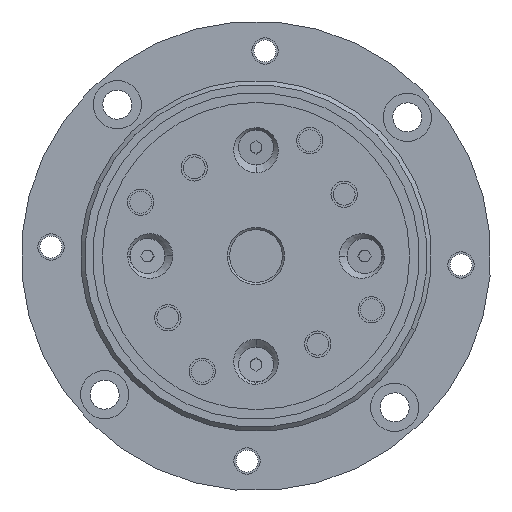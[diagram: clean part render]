
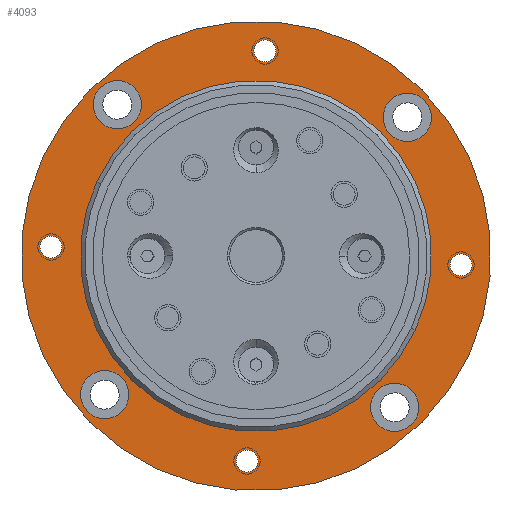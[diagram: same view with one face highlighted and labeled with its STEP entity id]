
A CAD part, front view. The second image highlights one B-rep face of the part: STEP entity #4093.
In plain terms, the highlighted planar face has unit normal (0, -1, 0).
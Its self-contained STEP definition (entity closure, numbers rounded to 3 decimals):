
#340=CARTESIAN_POINT('',(0.,6.,0.));
#341=DIRECTION('',(0.,1.,0.));
#342=DIRECTION('',(0.906,0.,-0.423));
#343=AXIS2_PLACEMENT_3D('',#340,#341,#342);
#345=CARTESIAN_POINT('',(0.,6.,0.));
#346=DIRECTION('',(0.,1.,0.));
#347=DIRECTION('',(-0.906,0.,0.423));
#348=AXIS2_PLACEMENT_3D('',#345,#346,#347);
#350=CARTESIAN_POINT('',(31.584,6.,-34.468));
#351=DIRECTION('',(0.,-1.,0.));
#352=DIRECTION('',(-0.676,0.,0.737));
#353=AXIS2_PLACEMENT_3D('',#350,#351,#352);
#355=CARTESIAN_POINT('',(31.584,6.,-34.468));
#356=DIRECTION('',(0.,-1.,0.));
#357=DIRECTION('',(0.676,0.,-0.737));
#358=AXIS2_PLACEMENT_3D('',#355,#356,#357);
#360=CARTESIAN_POINT('',(-34.468,6.,-31.584));
#361=DIRECTION('',(0.,-1.,0.));
#362=DIRECTION('',(0.737,0.,0.676));
#363=AXIS2_PLACEMENT_3D('',#360,#361,#362);
#365=CARTESIAN_POINT('',(-34.468,6.,-31.584));
#366=DIRECTION('',(0.,-1.,0.));
#367=DIRECTION('',(-0.737,0.,-0.676));
#368=AXIS2_PLACEMENT_3D('',#365,#366,#367);
#370=CARTESIAN_POINT('',(-31.584,6.,34.468));
#371=DIRECTION('',(0.,-1.,0.));
#372=DIRECTION('',(0.676,0.,-0.737));
#373=AXIS2_PLACEMENT_3D('',#370,#371,#372);
#375=CARTESIAN_POINT('',(-31.584,6.,34.468));
#376=DIRECTION('',(0.,-1.,0.));
#377=DIRECTION('',(-0.676,0.,0.737));
#378=AXIS2_PLACEMENT_3D('',#375,#376,#377);
#380=CARTESIAN_POINT('',(34.468,6.,31.584));
#381=DIRECTION('',(0.,-1.,0.));
#382=DIRECTION('',(-0.737,0.,-0.676));
#383=AXIS2_PLACEMENT_3D('',#380,#381,#382);
#385=CARTESIAN_POINT('',(34.468,6.,31.584));
#386=DIRECTION('',(0.,-1.,0.));
#387=DIRECTION('',(0.737,0.,0.676));
#388=AXIS2_PLACEMENT_3D('',#385,#386,#387);
#390=CARTESIAN_POINT('',(-2.039,6.,-46.706));
#391=DIRECTION('',(0.,-1.,0.));
#392=DIRECTION('',(0.044,0.,0.999));
#393=AXIS2_PLACEMENT_3D('',#390,#391,#392);
#395=CARTESIAN_POINT('',(-2.039,6.,-46.706));
#396=DIRECTION('',(0.,-1.,0.));
#397=DIRECTION('',(-0.044,0.,-0.999));
#398=AXIS2_PLACEMENT_3D('',#395,#396,#397);
#400=CARTESIAN_POINT('',(-46.706,6.,2.039));
#401=DIRECTION('',(0.,-1.,0.));
#402=DIRECTION('',(0.999,0.,-0.044));
#403=AXIS2_PLACEMENT_3D('',#400,#401,#402);
#405=CARTESIAN_POINT('',(-46.706,6.,2.039));
#406=DIRECTION('',(0.,-1.,0.));
#407=DIRECTION('',(-0.999,0.,0.044));
#408=AXIS2_PLACEMENT_3D('',#405,#406,#407);
#410=CARTESIAN_POINT('',(2.039,6.,46.706));
#411=DIRECTION('',(0.,-1.,0.));
#412=DIRECTION('',(-0.044,0.,-0.999));
#413=AXIS2_PLACEMENT_3D('',#410,#411,#412);
#415=CARTESIAN_POINT('',(2.039,6.,46.706));
#416=DIRECTION('',(0.,-1.,0.));
#417=DIRECTION('',(0.044,0.,0.999));
#418=AXIS2_PLACEMENT_3D('',#415,#416,#417);
#420=CARTESIAN_POINT('',(46.706,6.,-2.039));
#421=DIRECTION('',(0.,-1.,0.));
#422=DIRECTION('',(-0.999,0.,0.044));
#423=AXIS2_PLACEMENT_3D('',#420,#421,#422);
#425=CARTESIAN_POINT('',(46.706,6.,-2.039));
#426=DIRECTION('',(0.,-1.,0.));
#427=DIRECTION('',(0.999,0.,-0.044));
#428=AXIS2_PLACEMENT_3D('',#425,#426,#427);
#614=CARTESIAN_POINT('',(0.,6.,0.));
#615=DIRECTION('',(0.,1.,0.));
#616=DIRECTION('',(-0.906,0.,0.423));
#617=AXIS2_PLACEMENT_3D('',#614,#615,#616);
#619=CARTESIAN_POINT('',(0.,6.,0.));
#620=DIRECTION('',(0.,1.,0.));
#621=DIRECTION('',(0.906,0.,-0.423));
#622=AXIS2_PLACEMENT_3D('',#619,#620,#621);
#3217=CARTESIAN_POINT('',(48.487,6.,-22.61));
#3218=CARTESIAN_POINT('',(-48.487,6.,22.61));
#3219=VERTEX_POINT('',#3217);
#3220=VERTEX_POINT('',#3218);
#3221=CARTESIAN_POINT('',(27.868,6.,-30.413));
#3222=CARTESIAN_POINT('',(35.3,6.,-38.523));
#3223=VERTEX_POINT('',#3221);
#3224=VERTEX_POINT('',#3222);
#3225=CARTESIAN_POINT('',(-30.413,6.,-27.868));
#3226=CARTESIAN_POINT('',(-38.523,6.,-35.3));
#3227=VERTEX_POINT('',#3225);
#3228=VERTEX_POINT('',#3226);
#3229=CARTESIAN_POINT('',(-27.868,6.,30.413));
#3230=CARTESIAN_POINT('',(-35.3,6.,38.523));
#3231=VERTEX_POINT('',#3229);
#3232=VERTEX_POINT('',#3230);
#3233=CARTESIAN_POINT('',(30.413,6.,27.868));
#3234=CARTESIAN_POINT('',(38.523,6.,35.3));
#3235=VERTEX_POINT('',#3233);
#3236=VERTEX_POINT('',#3234);
#3237=CARTESIAN_POINT('',(-1.93,6.,-44.208));
#3238=CARTESIAN_POINT('',(-2.148,6.,-49.203));
#3239=VERTEX_POINT('',#3237);
#3240=VERTEX_POINT('',#3238);
#3241=CARTESIAN_POINT('',(-44.208,6.,1.93));
#3242=CARTESIAN_POINT('',(-49.203,6.,2.148));
#3243=VERTEX_POINT('',#3241);
#3244=VERTEX_POINT('',#3242);
#3245=CARTESIAN_POINT('',(1.93,6.,44.208));
#3246=CARTESIAN_POINT('',(2.148,6.,49.203));
#3247=VERTEX_POINT('',#3245);
#3248=VERTEX_POINT('',#3246);
#3249=CARTESIAN_POINT('',(44.208,6.,-1.93));
#3250=CARTESIAN_POINT('',(49.203,6.,-2.148));
#3251=VERTEX_POINT('',#3249);
#3252=VERTEX_POINT('',#3250);
#3729=CARTESIAN_POINT('',(-36.252,6.,16.905));
#3730=CARTESIAN_POINT('',(36.252,6.,-16.905));
#3731=VERTEX_POINT('',#3729);
#3732=VERTEX_POINT('',#3730);
#4029=CARTESIAN_POINT('',(0.,6.,0.));
#4030=DIRECTION('',(0.,1.,0.));
#4031=DIRECTION('',(0.906,0.,-0.423));
#4032=AXIS2_PLACEMENT_3D('',#4029,#4030,#4031);
#4033=PLANE('',#4032);
#4034=ORIENTED_EDGE('',*,*,#4019,.T.);
#4036=ORIENTED_EDGE('',*,*,#4035,.T.);
#4037=EDGE_LOOP('',(#4034,#4036));
#4038=FACE_OUTER_BOUND('',#4037,.F.);
#4040=ORIENTED_EDGE('',*,*,#4039,.T.);
#4042=ORIENTED_EDGE('',*,*,#4041,.T.);
#4043=EDGE_LOOP('',(#4040,#4042));
#4044=FACE_BOUND('',#4043,.F.);
#4046=ORIENTED_EDGE('',*,*,#4045,.T.);
#4048=ORIENTED_EDGE('',*,*,#4047,.T.);
#4049=EDGE_LOOP('',(#4046,#4048));
#4050=FACE_BOUND('',#4049,.F.);
#4052=ORIENTED_EDGE('',*,*,#4051,.T.);
#4054=ORIENTED_EDGE('',*,*,#4053,.T.);
#4055=EDGE_LOOP('',(#4052,#4054));
#4056=FACE_BOUND('',#4055,.F.);
#4058=ORIENTED_EDGE('',*,*,#4057,.T.);
#4060=ORIENTED_EDGE('',*,*,#4059,.T.);
#4061=EDGE_LOOP('',(#4058,#4060));
#4062=FACE_BOUND('',#4061,.F.);
#4064=ORIENTED_EDGE('',*,*,#4063,.T.);
#4066=ORIENTED_EDGE('',*,*,#4065,.T.);
#4067=EDGE_LOOP('',(#4064,#4066));
#4068=FACE_BOUND('',#4067,.F.);
#4070=ORIENTED_EDGE('',*,*,#4069,.T.);
#4072=ORIENTED_EDGE('',*,*,#4071,.T.);
#4073=EDGE_LOOP('',(#4070,#4072));
#4074=FACE_BOUND('',#4073,.F.);
#4076=ORIENTED_EDGE('',*,*,#4075,.T.);
#4078=ORIENTED_EDGE('',*,*,#4077,.T.);
#4079=EDGE_LOOP('',(#4076,#4078));
#4080=FACE_BOUND('',#4079,.F.);
#4082=ORIENTED_EDGE('',*,*,#4081,.T.);
#4084=ORIENTED_EDGE('',*,*,#4083,.T.);
#4085=EDGE_LOOP('',(#4082,#4084));
#4086=FACE_BOUND('',#4085,.F.);
#4088=ORIENTED_EDGE('',*,*,#4087,.F.);
#4090=ORIENTED_EDGE('',*,*,#4089,.F.);
#4091=EDGE_LOOP('',(#4088,#4090));
#4092=FACE_BOUND('',#4091,.F.);
#344=CIRCLE('',#343,53.5);
#349=CIRCLE('',#348,53.5);
#354=CIRCLE('',#353,5.5);
#359=CIRCLE('',#358,5.5);
#364=CIRCLE('',#363,5.5);
#369=CIRCLE('',#368,5.5);
#374=CIRCLE('',#373,5.5);
#379=CIRCLE('',#378,5.5);
#384=CIRCLE('',#383,5.5);
#389=CIRCLE('',#388,5.5);
#394=CIRCLE('',#393,2.5);
#399=CIRCLE('',#398,2.5);
#404=CIRCLE('',#403,2.5);
#409=CIRCLE('',#408,2.5);
#414=CIRCLE('',#413,2.5);
#419=CIRCLE('',#418,2.5);
#424=CIRCLE('',#423,2.5);
#429=CIRCLE('',#428,2.5);
#618=CIRCLE('',#617,40.);
#623=CIRCLE('',#622,40.);
#4019=EDGE_CURVE('',#3219,#3220,#344,.T.);
#4035=EDGE_CURVE('',#3220,#3219,#349,.T.);
#4039=EDGE_CURVE('',#3223,#3224,#354,.T.);
#4041=EDGE_CURVE('',#3224,#3223,#359,.T.);
#4045=EDGE_CURVE('',#3227,#3228,#364,.T.);
#4047=EDGE_CURVE('',#3228,#3227,#369,.T.);
#4051=EDGE_CURVE('',#3231,#3232,#374,.T.);
#4053=EDGE_CURVE('',#3232,#3231,#379,.T.);
#4057=EDGE_CURVE('',#3235,#3236,#384,.T.);
#4059=EDGE_CURVE('',#3236,#3235,#389,.T.);
#4063=EDGE_CURVE('',#3239,#3240,#394,.T.);
#4065=EDGE_CURVE('',#3240,#3239,#399,.T.);
#4069=EDGE_CURVE('',#3243,#3244,#404,.T.);
#4071=EDGE_CURVE('',#3244,#3243,#409,.T.);
#4075=EDGE_CURVE('',#3247,#3248,#414,.T.);
#4077=EDGE_CURVE('',#3248,#3247,#419,.T.);
#4081=EDGE_CURVE('',#3251,#3252,#424,.T.);
#4083=EDGE_CURVE('',#3252,#3251,#429,.T.);
#4087=EDGE_CURVE('',#3731,#3732,#618,.T.);
#4089=EDGE_CURVE('',#3732,#3731,#623,.T.);
#4093=ADVANCED_FACE('',(#4038,#4044,#4050,#4056,#4062,#4068,#4074,#4080,#4086,
#4092),#4033,.F.);
